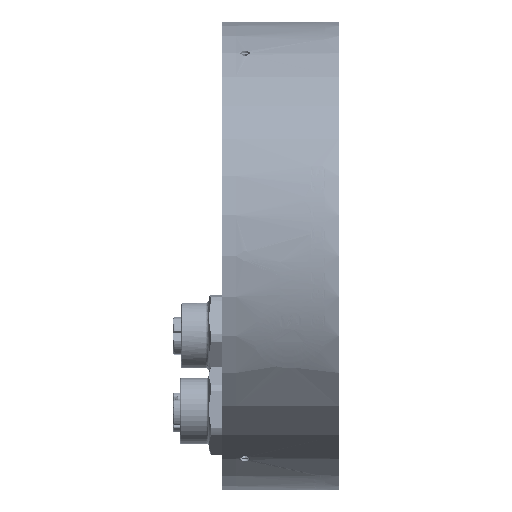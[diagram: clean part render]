
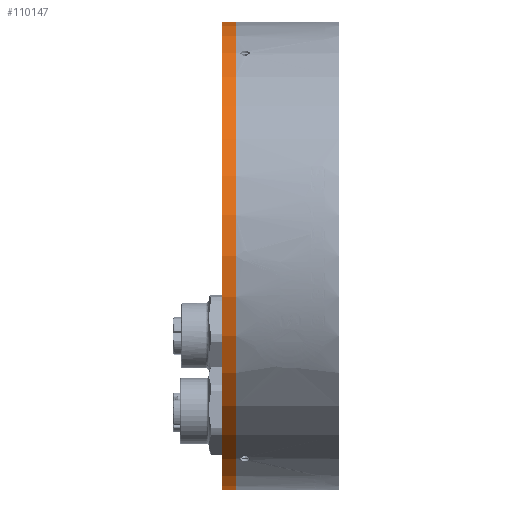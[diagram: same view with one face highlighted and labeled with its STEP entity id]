
A CAD part, front view. The second image highlights one B-rep face of the part: STEP entity #110147.
In plain terms, the highlighted cylindrical face has radius 50 mm (diameter 100 mm), a partial arc.
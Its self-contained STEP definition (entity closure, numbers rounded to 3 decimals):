
#37663 = VECTOR ( 'NONE', #290627, 1000. ) ;
#52941 = DIRECTION ( 'NONE',  ( -1., 0., 0. ) ) ;
#53740 = CARTESIAN_POINT ( 'NONE',  ( 0., 0., -50. ) ) ;
#57968 = CIRCLE ( 'NONE', #260667, 50. ) ;
#62826 = CIRCLE ( 'NONE', #229028, 50. ) ;
#72521 = DIRECTION ( 'NONE',  ( 0., 0., 1. ) ) ;
#74845 = EDGE_CURVE ( 'NONE', #307153, #183955, #57968, .T. ) ;
#88172 = CARTESIAN_POINT ( 'NONE',  ( -3., 0., 50. ) ) ;
#110147 = ADVANCED_FACE ( 'NONE', ( #197445 ), #223460, .T. ) ;
#121846 = VERTEX_POINT ( 'NONE', #53740 ) ;
#127375 = CARTESIAN_POINT ( 'NONE',  ( 0., 0., 50. ) ) ;
#130007 = EDGE_CURVE ( 'NONE', #139785, #183955, #189735, .T. ) ;
#139785 = VERTEX_POINT ( 'NONE', #127375 ) ;
#140989 = CARTESIAN_POINT ( 'NONE',  ( 6., 0., 50. ) ) ;
#148609 = DIRECTION ( 'NONE',  ( 0., 0., 1. ) ) ;
#155212 = EDGE_LOOP ( 'NONE', ( #271281, #267126, #232625, #177166 ) ) ;
#168440 = LINE ( 'NONE', #197691, #306190 ) ;
#177166 = ORIENTED_EDGE ( 'NONE', *, *, #74845, .F. ) ;
#183955 = VERTEX_POINT ( 'NONE', #88172 ) ;
#189735 = LINE ( 'NONE', #140989, #37663 ) ;
#197445 = FACE_OUTER_BOUND ( 'NONE', #155212, .T. ) ;
#197691 = CARTESIAN_POINT ( 'NONE',  ( 6., 0., -50. ) ) ;
#215746 = AXIS2_PLACEMENT_3D ( 'NONE', #296706, #272259, #148609 ) ;
#222063 = EDGE_CURVE ( 'NONE', #121846, #307153, #168440, .T. ) ;
#223460 = CYLINDRICAL_SURFACE ( 'NONE', #215746, 50. ) ;
#223714 = DIRECTION ( 'NONE',  ( -1., 0., 0. ) ) ;
#229028 = AXIS2_PLACEMENT_3D ( 'NONE', #272522, #52941, #72521 ) ;
#231817 = CARTESIAN_POINT ( 'NONE',  ( -3., 0., -50. ) ) ;
#232625 = ORIENTED_EDGE ( 'NONE', *, *, #130007, .T. ) ;
#260667 = AXIS2_PLACEMENT_3D ( 'NONE', #281394, #304186, #282969 ) ;
#267126 = ORIENTED_EDGE ( 'NONE', *, *, #285281, .T. ) ;
#271281 = ORIENTED_EDGE ( 'NONE', *, *, #222063, .F. ) ;
#272259 = DIRECTION ( 'NONE',  ( -1., 0., 0. ) ) ;
#272522 = CARTESIAN_POINT ( 'NONE',  ( 0., 0., 0. ) ) ;
#281394 = CARTESIAN_POINT ( 'NONE',  ( -3., 0., 0. ) ) ;
#282969 = DIRECTION ( 'NONE',  ( 0., 0., 1. ) ) ;
#285281 = EDGE_CURVE ( 'NONE', #121846, #139785, #62826, .T. ) ;
#290627 = DIRECTION ( 'NONE',  ( -1., 0., 0. ) ) ;
#296706 = CARTESIAN_POINT ( 'NONE',  ( 6., 0., 0. ) ) ;
#304186 = DIRECTION ( 'NONE',  ( -1., 0., 0. ) ) ;
#306190 = VECTOR ( 'NONE', #223714, 1000. ) ;
#307153 = VERTEX_POINT ( 'NONE', #231817 ) ;
